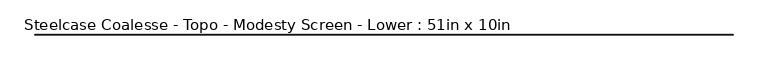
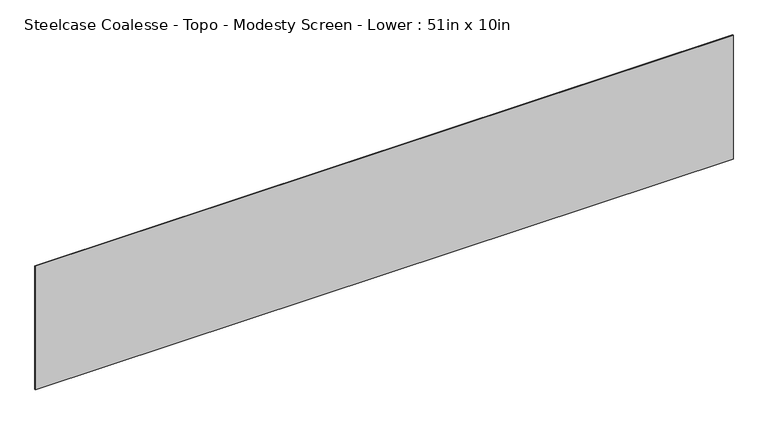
"""IFC4 building model written with IfcOpenShell, lengths in millimetres: furniture geometry, Steelcase Coalesse - Topo - Modesty Screen - Lower : 51in x 10in."""

from ifc_helpers import new_model, si_unit, frame, origin, place, context, project, spatial, polyline, outline, extrude, source, transform, mapped, element, save


def steelcase_coalesse_topo_modesty_screen_lower_51in_x_10in_e8a221f6(model_context):
    return source(origin(), model_context, "Body", "SweptSolid", [
        extrude(outline(polyline([(241.3515472, -228.5430267), (1536.7515472, -228.5430267), (1536.7515472, -229.5590267), (241.3515472, -229.5590267), (241.3515472, -228.5430267)])), frame((0.0, 0.0, 463.55), z_axis=(0.0, 0.0, 1.0), x_axis=(1.0, 0.0, 0.0)), (0.0, 0.0, 1.0), 243.0780044),
    ])


if __name__ == "__main__":
    model = new_model("IFC4")
    model_context = context("Model", 3, world=origin())
    ifc_project = project(units=[si_unit("LENGTHUNIT", "METRE", prefix="MILLI")], contexts=[model_context])
    site = spatial("IfcSite", under=ifc_project)
    building = spatial("IfcBuilding", under=site)
    placement = place(None, origin())
    steelcase_coalesse_topo_modesty_screen_lower_51in_x_10in_shape = steelcase_coalesse_topo_modesty_screen_lower_51in_x_10in_e8a221f6(model_context)
    element("IfcFurniture", 1, ObjectType="Steelcase Coalesse - Topo - Modesty Screen - Lower : 51in x 10in", at=placement, inside=building, context=model_context, shape_type="MappedRepresentation", body=[
        mapped(steelcase_coalesse_topo_modesty_screen_lower_51in_x_10in_shape, transform((0.0, 0.0, 0.0), x_axis=(1.0, 0.0, 0.0), y_axis=(0.0, 1.0, 0.0), z_axis=(0.0, 0.0, 1.0))),
    ])
    save(model, "model.ifc")
